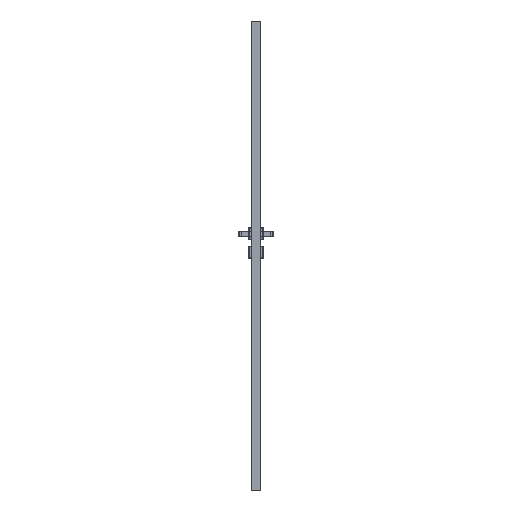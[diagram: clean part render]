
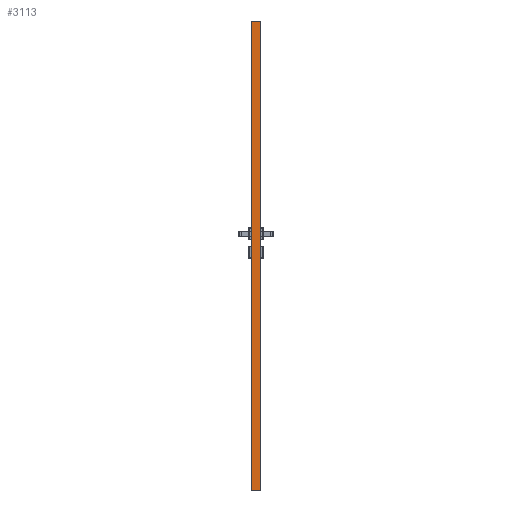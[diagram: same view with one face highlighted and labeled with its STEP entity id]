
A CAD part, left-side view. The second image highlights one B-rep face of the part: STEP entity #3113.
In plain terms, the highlighted planar face has unit normal (-1, 0, 0).
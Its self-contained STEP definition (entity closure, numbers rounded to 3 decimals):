
#1434=FACE_OUTER_BOUND('',#6902,.T.);
#3113=ADVANCED_FACE('',(#1434),#4801,.F.);
#4801=PLANE('',#31764);
#6902=EDGE_LOOP('',(#9687,#9688,#9689,#9690,#9691,#9692));
#9687=ORIENTED_EDGE('',*,*,#20893,.F.);
#9688=ORIENTED_EDGE('',*,*,#20887,.F.);
#9689=ORIENTED_EDGE('',*,*,#20557,.F.);
#9690=ORIENTED_EDGE('',*,*,#20891,.T.);
#9691=ORIENTED_EDGE('',*,*,#20894,.F.);
#9692=ORIENTED_EDGE('',*,*,#20821,.T.);
#17633=VERTEX_POINT('',#43296);
#17634=VERTEX_POINT('',#43298);
#17820=VERTEX_POINT('',#43826);
#17821=VERTEX_POINT('',#43828);
#17855=VERTEX_POINT('',#43958);
#17857=VERTEX_POINT('',#43964);
#20557=EDGE_CURVE('',#17633,#17634,#24922,.T.);
#20821=EDGE_CURVE('',#17821,#17820,#25162,.T.);
#20887=EDGE_CURVE('',#17634,#17855,#25221,.T.);
#20891=EDGE_CURVE('',#17633,#17857,#25225,.T.);
#20893=EDGE_CURVE('',#17855,#17820,#25227,.T.);
#20894=EDGE_CURVE('',#17821,#17857,#25228,.T.);
#24922=LINE('',#43297,#28302);
#25162=LINE('',#43827,#28542);
#25221=LINE('',#43957,#28601);
#25225=LINE('',#43966,#28605);
#25227=LINE('',#43969,#28607);
#25228=LINE('',#43970,#28608);
#28302=VECTOR('',#34375,1.);
#28542=VECTOR('',#34821,1.);
#28601=VECTOR('',#34954,1.);
#28605=VECTOR('',#34960,1.);
#28607=VECTOR('',#34964,1.);
#28608=VECTOR('',#34965,1.);
#31764=AXIS2_PLACEMENT_3D('',#43971,#34966,#34967);
#34375=DIRECTION('',(0.,-1.,0.));
#34821=DIRECTION('',(0.,-1.,0.));
#34954=DIRECTION('',(0.,0.,-1.));
#34960=DIRECTION('',(0.,0.,-1.));
#34964=DIRECTION('',(0.,0.894,-0.447));
#34965=DIRECTION('',(0.,0.894,0.447));
#34966=DIRECTION('',(1.,0.,0.));
#34967=DIRECTION('',(0.,1.,0.));
#43296=CARTESIAN_POINT('',(-309.,0.,2017.));
#43297=CARTESIAN_POINT('',(-309.,-40.,2017.));
#43298=CARTESIAN_POINT('',(-309.,-40.,2017.));
#43826=CARTESIAN_POINT('',(-309.,-38.,0.));
#43827=CARTESIAN_POINT('',(-309.,0.,0.));
#43828=CARTESIAN_POINT('',(-309.,-2.,0.));
#43957=CARTESIAN_POINT('',(-309.,-40.,2250.));
#43958=CARTESIAN_POINT('',(-309.,-40.,1.));
#43964=CARTESIAN_POINT('',(-309.,0.,1.));
#43966=CARTESIAN_POINT('',(-309.,0.,2250.));
#43969=CARTESIAN_POINT('',(-309.,-38.,0.));
#43970=CARTESIAN_POINT('',(-309.,0.,1.));
#43971=CARTESIAN_POINT('',(-309.,0.,2250.));
